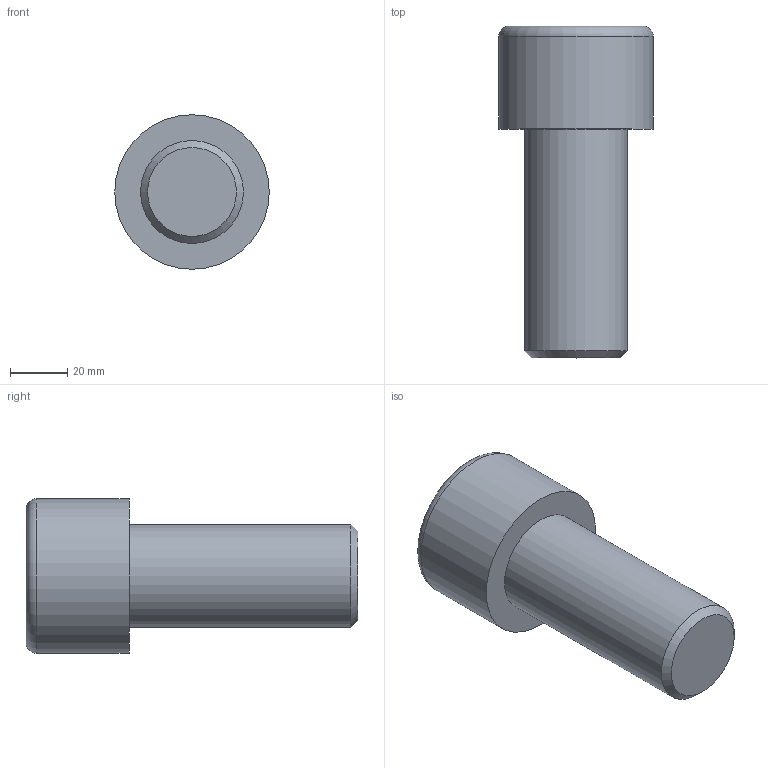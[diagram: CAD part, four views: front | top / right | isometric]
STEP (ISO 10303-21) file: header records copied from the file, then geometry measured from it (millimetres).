
FILE_DESCRIPTION(/* description */ (''),/* implementation_level */ '2;1');
FILE_NAME(/* name */ 'C:\Users\D\Documents\Inventor\各種小物\JIS\JIS B 1176 六角穴付きボルト\M36x80.stp',/* time_stamp */ '2022-05-09T19:04:11+09:00',/* author */ ('D'),/* organization */ (''),/* preprocessor_version */ 'ST-DEVELOPER v18',/* originating_system */ 'Autodesk Inventor 2020',/* authorisation */ '');
FILE_SCHEMA (('AUTOMOTIVE_DESIGN { 1 0 10303 214 3 1 1 }'));
Length unit declared in the file: millimetre
Products named in the file (1): M1.6x2.5
Bounding box: 54 x 116 x 54 mm (x, y, z)
Volume: 148873.5 mm3; surface area: 21246.3 mm2
Topology: 1 solids, 1 shells, 14 faces, 33 edges, 22 vertices
Faces by surface type: plane 9, cone 2, cylinder 2, torus 1
Full cylindrical faces by diameter (mm): 36 x1, 54 x1
Entity records: 435 total; most frequent: CARTESIAN_POINT 83, ORIENTED_EDGE 64, DIRECTION 64, EDGE_CURVE 32, AXIS2_PLACEMENT_3D 24, VERTEX_POINT 22, EDGE_LOOP 16, LINE 16
